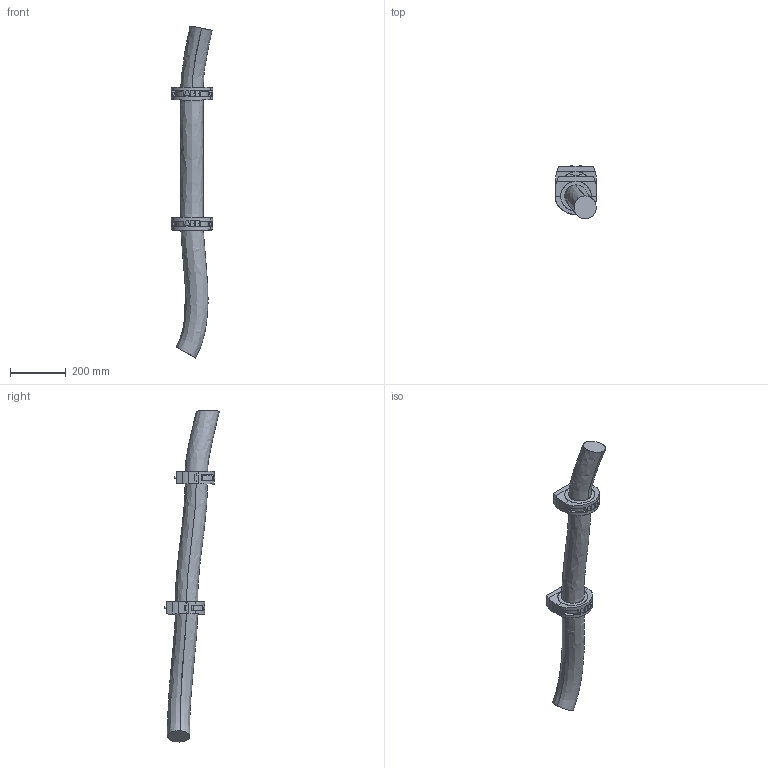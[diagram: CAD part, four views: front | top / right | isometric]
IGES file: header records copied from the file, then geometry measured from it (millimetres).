
Start section: SolidWorks IGES file using analytic representation for surfaces
Global section: file name: C:\DATA\SAP_DOC\LW\IRB 6730\IRB6730-LID-SW_190kg-310_OC_01_SW_J\Export\IRB6730-LID-SW_190kg-310_OC_01_IGES_J\IRB6730-LID-SW_190kg-310_OC_00_LINK02_CABLE.igs; native system: SolidWorks 2024; preprocessor: SolidWorks 2024; author: SEJOVAS3; date: 260526.111352; units: millimetre
Bounding box: 148 x 193.69 x 1186.31 mm (x, y, z)
Surface area: 395432.6 mm2 (no closed solid volume)
Topology: 0 solids, 0 shells, 224 faces, 3945 edges, 3945 vertices
Faces by surface type: bspline 150, revolution 74
